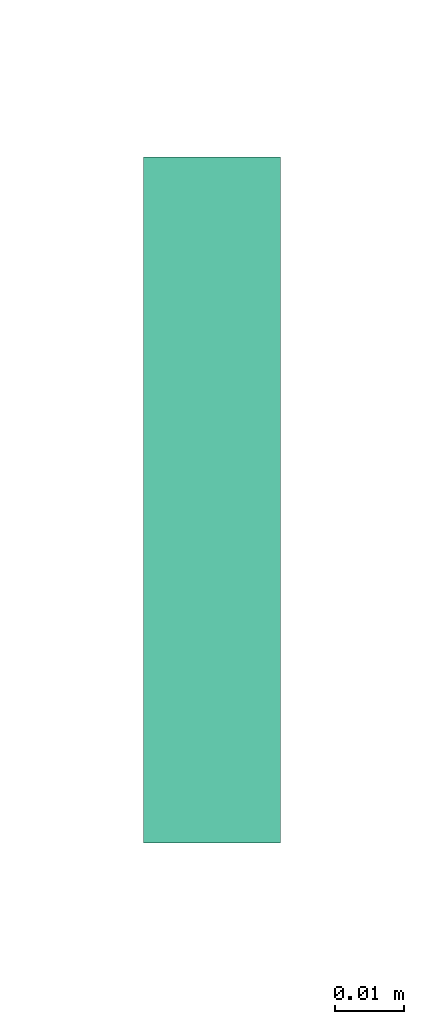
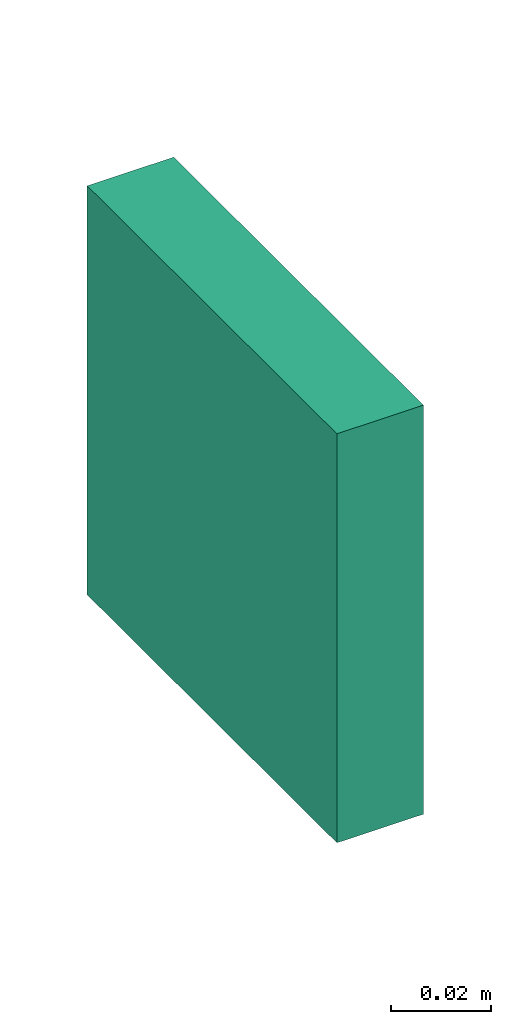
# One storey, part 63 of 166: 1 distribution control element.
"""IFC2X3 building model written with IfcOpenShell, lengths in metres."""

from ifc_helpers import new_model, entity, si_unit, converted_unit, derived_unit, direction, frame, origin, origin_2d_with_axis, place, context, subcontext, project, spatial, rectangle, extrude, source, transform, mapped, type_object, type_shapes, element, save


model = new_model("IFC2X3")

# Units and contexts
model_context = context("Model", 3, precision=1e-05, world=origin(), true_north=direction((6.12303176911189e-17, 1.0)))
body_context = subcontext(model_context, "Body", "Model", "MODEL_VIEW")
ifc_project = project(units=[si_unit("LENGTHUNIT", "METRE"), si_unit("AREAUNIT", "SQUARE_METRE"), si_unit("VOLUMEUNIT", "CUBIC_METRE"), converted_unit("PLANEANGLEUNIT", "DEGREE", entity("IfcRatioMeasure", 0.0174532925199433), si_unit("PLANEANGLEUNIT", "RADIAN"), dimensions=[0, 0, 0, 0, 0, 0, 0]), si_unit("MASSUNIT", "GRAM", prefix="KILO"), derived_unit("MASSDENSITYUNIT", [(si_unit("MASSUNIT", "GRAM", prefix="KILO"), 1), (si_unit("LENGTHUNIT", "METRE"), -3)]), si_unit("TIMEUNIT", "SECOND"), si_unit("FREQUENCYUNIT", "HERTZ"), si_unit("THERMODYNAMICTEMPERATUREUNIT", "DEGREE_CELSIUS"), derived_unit("THERMALTRANSMITTANCEUNIT", [(si_unit("MASSUNIT", "GRAM", prefix="KILO"), 1), (si_unit("THERMODYNAMICTEMPERATUREUNIT", "KELVIN"), -1), (si_unit("TIMEUNIT", "SECOND"), -3)]), derived_unit("VOLUMETRICFLOWRATEUNIT", [(si_unit("LENGTHUNIT", "METRE"), 3), (si_unit("TIMEUNIT", "SECOND"), -1)]), si_unit("ELECTRICCURRENTUNIT", "AMPERE"), si_unit("ELECTRICVOLTAGEUNIT", "VOLT"), si_unit("POWERUNIT", "WATT"), si_unit("FORCEUNIT", "NEWTON"), si_unit("ILLUMINANCEUNIT", "LUX"), si_unit("LUMINOUSFLUXUNIT", "LUMEN"), si_unit("LUMINOUSINTENSITYUNIT", "CANDELA"), derived_unit("USERDEFINED", [(si_unit("MASSUNIT", "GRAM", prefix="KILO"), -1), (si_unit("LENGTHUNIT", "METRE"), -2), (si_unit("TIMEUNIT", "SECOND"), 3), (si_unit("LUMINOUSFLUXUNIT", "LUMEN"), 1)]), derived_unit("LINEARVELOCITYUNIT", [(si_unit("LENGTHUNIT", "METRE"), 1), (si_unit("TIMEUNIT", "SECOND"), -1)]), si_unit("PRESSUREUNIT", "PASCAL"), derived_unit("USERDEFINED", [(si_unit("LENGTHUNIT", "METRE"), -2), (si_unit("MASSUNIT", "GRAM", prefix="KILO"), 1), (si_unit("TIMEUNIT", "SECOND"), -2)])], contexts=[model_context])

# Site, building, storey
site_placement = place(None, origin())
site = spatial("IfcSite", under=ifc_project, at=site_placement, Name="Default", CompositionType="ELEMENT")
building_placement = place(site_placement, origin())
building = spatial("IfcBuilding", under=site, at=building_placement, CompositionType="ELEMENT")
storey_placement = place(building_placement, frame((0.0, 0.0, 4.27)))
storey = spatial("IfcBuildingStorey", under=building, at=storey_placement, Name="01", CompositionType="ELEMENT", Elevation=4.27)

# Distribution control element
alarm_type = type_object("IfcAlarmType", Name="Incendie_Déclenheur manuel", PredefinedType="NOTDEFINED")
shared_shape = source(origin(), body_context, "Body", "SweptSolid", [
    extrude(rectangle(XDim=0.1, YDim=0.1, at=origin_2d_with_axis()), frame((0.0, 0.0, 0.0), z_axis=(0.0, 0.0, 1.0), x_axis=(0.0, 1.0, 0.0)), (0.0, 0.0, 1.0), 0.02),
])
type_shapes(alarm_type, [shared_shape])
distribution_control_element_placement = place(building_placement, frame((25.2797436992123, -184.88508140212, 5.31999999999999), z_axis=(-1.0, 0.0, 0.0), x_axis=(0.0, 1.0, 0.0)))
element("IfcDistributionControlElement", 1, at=distribution_control_element_placement, inside=storey, type_object=alarm_type, Name="INT_Déclenheur manuel:Incendie_Déclenheur manuel", ObjectType="INT_Déclenheur manuel:Incendie_Déclenheur manuel", context=body_context, shape_type="MappedRepresentation", body=[
    mapped(shared_shape, transform((0.0, 0.0, 0.0), scale=1.0)),
])

save(model, "model.ifc")
